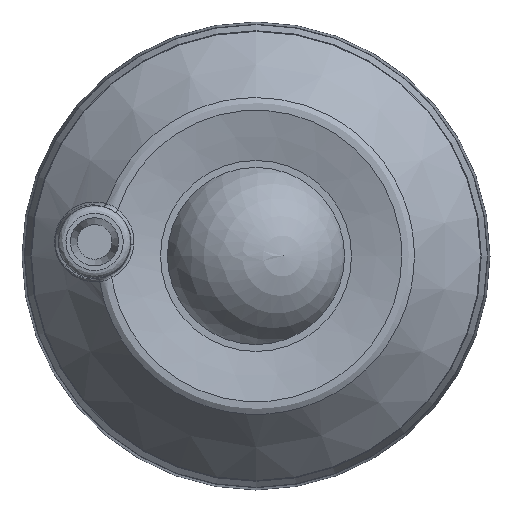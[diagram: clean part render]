
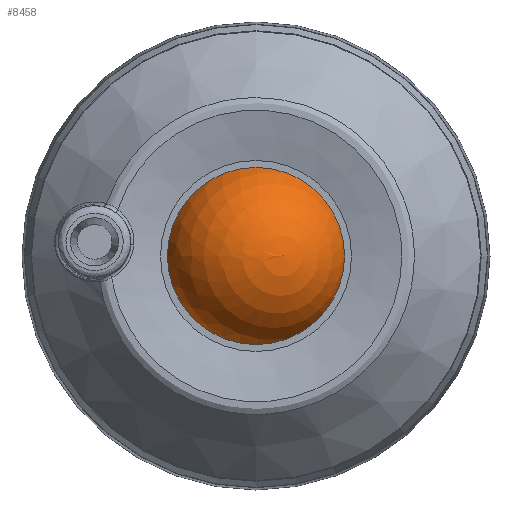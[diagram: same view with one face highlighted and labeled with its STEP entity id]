
A CAD part, front view. The second image highlights one B-rep face of the part: STEP entity #8458.
In plain terms, the highlighted spherical face has radius 7.354 mm.
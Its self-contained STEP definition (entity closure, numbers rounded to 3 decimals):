
#1478 = CARTESIAN_POINT ( 'NONE',  ( -0.001, -9.905, 0.001 ) ) ;
#3328 = DIRECTION ( 'NONE',  ( -0.956, -0.292, 0. ) ) ;
#4810 = DIRECTION ( 'NONE',  ( 0., -1., 0. ) ) ;
#7494 = DIRECTION ( 'NONE',  ( 0.292, -0.956, 0. ) ) ;
#8458 = ADVANCED_FACE ( 'NONE', ( #20691 ), #13068, .T. ) ;
#13068 = SPHERICAL_SURFACE ( 'NONE', #14325, 7.354 ) ;
#13227 = VERTEX_POINT ( 'NONE', #20789 ) ;
#14325 = AXIS2_PLACEMENT_3D ( 'NONE', #1478, #7494, #3328 ) ;
#14727 = AXIS2_PLACEMENT_3D ( 'NONE', #18515, #4810, #20494 ) ;
#17093 = EDGE_CURVE ( 'NONE', #13227, #13227, #17097, .T. ) ;
#17097 = CIRCLE ( 'NONE', #14727, 7. ) ;
#18515 = CARTESIAN_POINT ( 'NONE',  ( -0.001, -12.159, 0.001 ) ) ;
#19140 = EDGE_LOOP ( 'NONE', ( #23273 ) ) ;
#20494 = DIRECTION ( 'NONE',  ( 0., 0., 1. ) ) ;
#20691 = FACE_OUTER_BOUND ( 'NONE', #19140, .T. ) ;
#20789 = CARTESIAN_POINT ( 'NONE',  ( -0.001, -12.159, 7.001 ) ) ;
#23273 = ORIENTED_EDGE ( 'NONE', *, *, #17093, .T. ) ;
